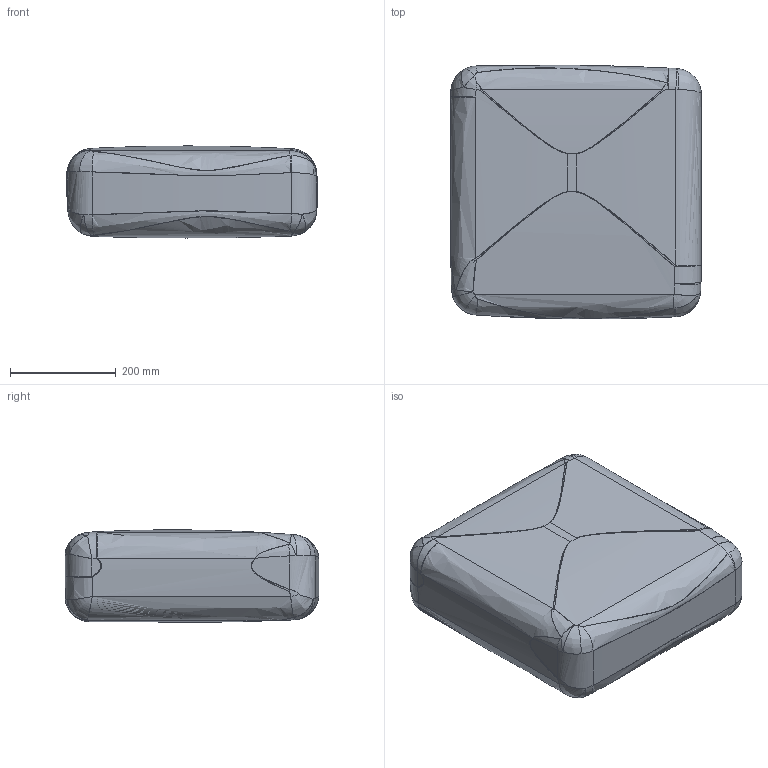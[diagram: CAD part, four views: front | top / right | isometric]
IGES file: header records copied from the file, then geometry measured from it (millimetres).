
Start section: SolidWorks IGES file using NURBS representation for surfaces
Global section: file name: D:\VICCARBE\PRODUCTOS\19-MASS\04-MODELADOS (PLANOS)\SOLIDWORKS\PIEZAS\Cushions\01-IGES\VICCARBE_Mass_cushion_48.IGS; native system: SolidWorks 2009; preprocessor: SolidWorks 2009; author: RUBEN; date: 110908.163041; units: millimetre
Bounding box: 474.61 x 480.48 x 174.17 mm (x, y, z)
Surface area: 668237.8 mm2 (no closed solid volume)
Topology: 0 solids, 0 shells, 94 faces, 1575 edges, 1573 vertices
Faces by surface type: bspline 94
